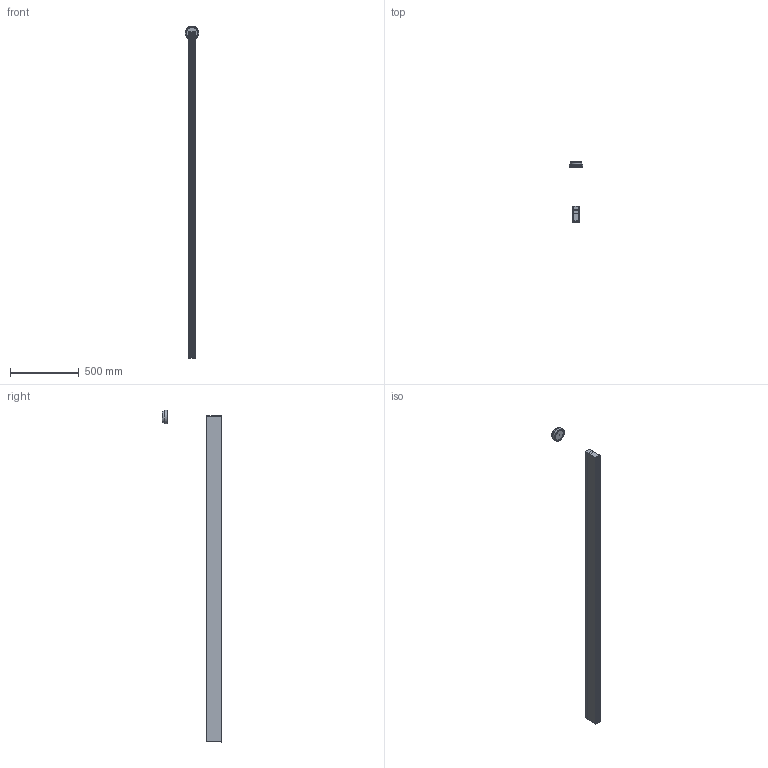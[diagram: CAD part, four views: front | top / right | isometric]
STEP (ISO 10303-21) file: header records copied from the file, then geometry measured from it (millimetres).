
FILE_DESCRIPTION(/* description */ (''),/* implementation_level */ '2;1');
FILE_NAME(/* name */ 'D:\_SHARED\_PROGETTI IN CORSO\Artemide\3D Semplificati\Algoritmo\ASM Semplificati\EXPORT MODELLI SEMPLIFICATI\22.ipt.stp',/* time_stamp */ '2018-02-23T06:07:52-08:00',/* author */ ('NEGRI'),/* organization */ (''),/* preprocessor_version */ 'ST-DEVELOPER v16.13',/* originating_system */ 'Autodesk Inventor 2018',/* authorisation */ '');
FILE_SCHEMA (('AUTOMOTIVE_DESIGN { 1 0 10303 214 3 1 1 }'));
Length unit declared in the file: metre
Products named in the file (1): 22.x_t
Bounding box: 100.35 x 435.9 x 2414.85 mm (x, y, z)
Volume: 3904229.8 mm3; surface area: 1999889.7 mm2
Topology: 15 solids, 15 shells, 281 faces, 689 edges, 442 vertices
Faces by surface type: plane 159, cylinder 86, torus 21, cone 11, bspline 4
Full cylindrical faces by diameter (mm): 2 x1, 80 x1, 82.6 x1, 85 x1
Entity records: 8470 total; most frequent: CARTESIAN_POINT 1699, DIRECTION 1409, ORIENTED_EDGE 1346, EDGE_CURVE 673, LINE 473, VECTOR 473, AXIS2_PLACEMENT_3D 468, VERTEX_POINT 438
